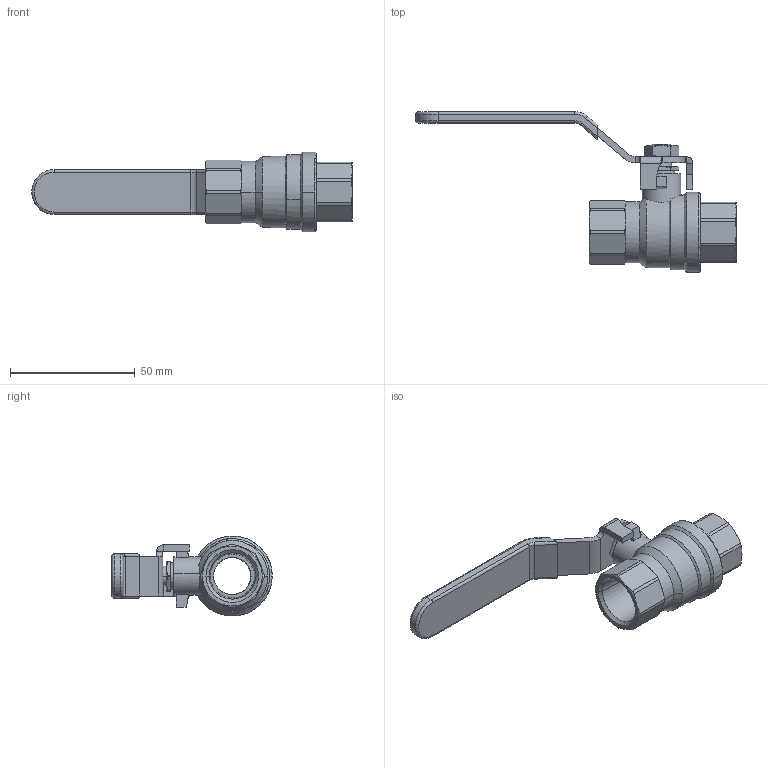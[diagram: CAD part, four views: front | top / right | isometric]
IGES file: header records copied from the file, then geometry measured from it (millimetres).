
Global section: file name: No Iges File Name specified; native system: AutoDesk Inventor R12.0; preprocessor: AutoDesk Inventor Iges Exporter R12.0; date: 20110127.154224; units: millimetre
Bounding box: 128.4 x 64.31 x 32 mm (x, y, z)
Volume: 32366.2 mm3; surface area: 25734 mm2
Topology: 7 solids, 7 shells, 1543 faces, 4151 edges, 2757 vertices
Faces by surface type: plane 812, bspline 499, revolution 70, cylinder 67, cone 65, torus 26, sphere 4
